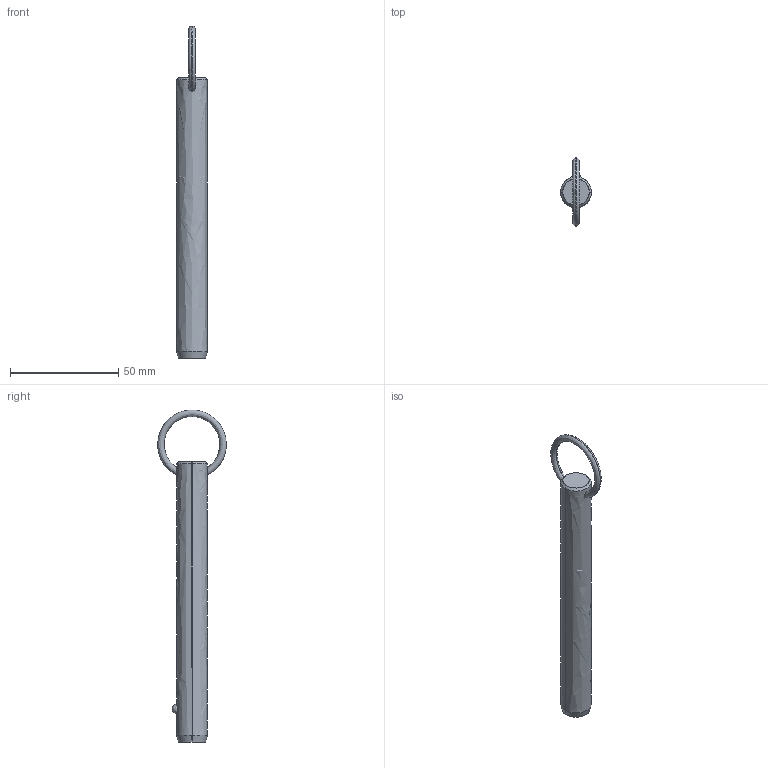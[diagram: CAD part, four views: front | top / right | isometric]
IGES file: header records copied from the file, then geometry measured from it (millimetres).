
Start section: SolidWorks IGES file using analytic representation for surfaces
Global section: file name: C:\Users\liam_\OneDrive\Documents\WORK\Work for WixRoyd\Job Files\J-00019 - Matt Davis CAD Checking\04. CAD Drawings\automotion20190605\P1250.2_v2\P1250.2_v2_20190729_IGES\P1250.056-410.igs; native system: SolidWorks 2017; preprocessor: SolidWorks 2017; author: liam_; date: 190729.232223; units: millimetre
Bounding box: 14.2 x 31.68 x 153.2 mm (x, y, z)
Surface area: 6738.5 mm2 (no closed solid volume)
Topology: 0 solids, 0 shells, 12 faces, 285 edges, 283 vertices
Faces by surface type: revolution 8, bspline 4
